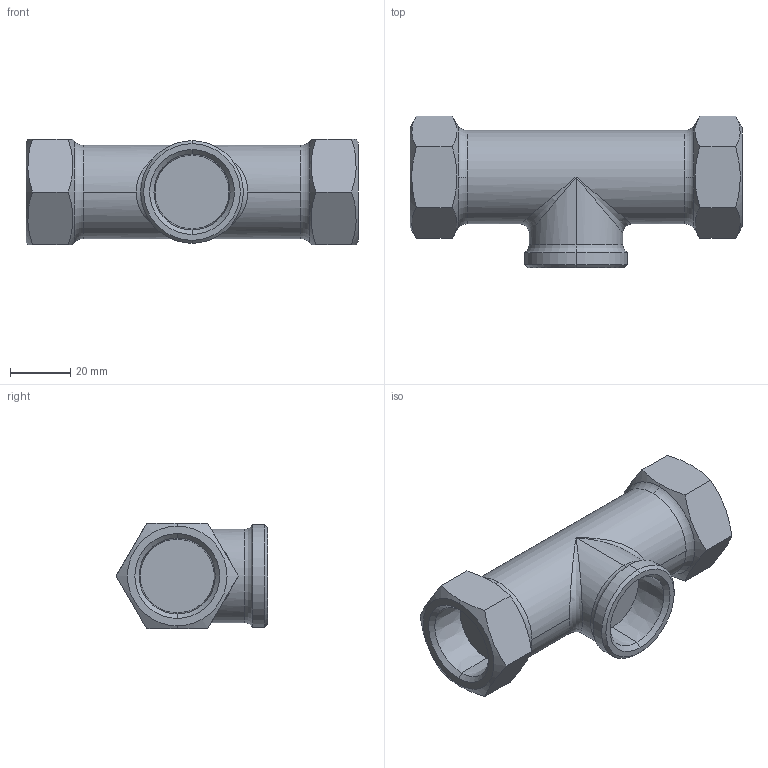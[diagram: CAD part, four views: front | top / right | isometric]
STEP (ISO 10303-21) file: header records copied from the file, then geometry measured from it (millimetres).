
FILE_DESCRIPTION (( 'STEP AP203' ), '1' );
FILE_NAME ('MS-1 20A.STEP', '2026-01-23T01:43:47', ( '' ), ( '' ), 'SwSTEP 2.0', 'SolidWorks 2024', '' );
FILE_SCHEMA (( 'CONFIG_CONTROL_DESIGN' ));
Length unit declared in the file: millimetre
Products named in the file (1): MS-1 20A
Bounding box: 110 x 50.21 x 35 mm (x, y, z)
Volume: 86869.3 mm3; surface area: 18357.2 mm2
Topology: 1 solids, 1 shells, 54 faces, 131 edges, 78 vertices
Faces by surface type: cone 22, plane 18, torus 6, cylinder 6, bspline 2
Entity records: 2050 total; most frequent: CARTESIAN_POINT 784, ORIENTED_EDGE 254, DIRECTION 243, EDGE_CURVE 127, AXIS2_PLACEMENT_3D 101, VERTEX_POINT 78, EDGE_LOOP 57, ADVANCED_FACE 54
